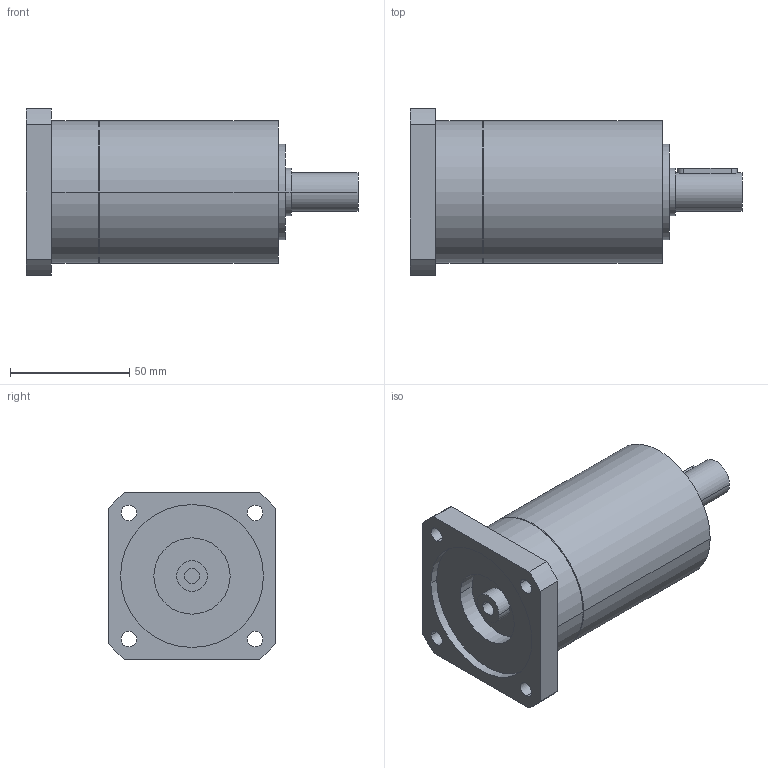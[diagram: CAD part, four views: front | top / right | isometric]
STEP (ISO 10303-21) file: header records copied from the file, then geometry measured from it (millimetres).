
FILE_DESCRIPTION(('CoCreate Modeling STEP Export'),'2;1');
FILE_NAME('GPR75_ig-9-12-16-20-24-30-36_16_B14_6.35_P04.stp','2014-08-25T16:03:53',(''),(''),'CoCreate Modeling STEP processor for AP214 (Solid Model)','CoCreate Modeling 16.00C 25-Feb-2009 (C) Parametric Technology GmbH','');
FILE_SCHEMA(('AUTOMOTIVE_DESIGN { 1 0 10303 214 1 1 1 1 }'));
Length unit declared in the file: millimetre
Products named in the file (2): GPR75_ig-9-12-16-20-24-30-36_16_B14_6.35_P04
Assembly tree (1 placements, depth 2):
  GPR75_ig-9-12-16-20-24-30-36_16_B14_6.35_P04
    GPR75_ig-9-12-16-20-24-30-36_16_B14_6.35_P04
Bounding box: 139.4 x 70 x 70 mm (x, y, z)
Volume: 313084 mm3; surface area: 36031 mm2
Topology: 1 solids, 1 shells, 70 faces, 187 edges, 131 vertices
Faces by surface type: cylinder 42, plane 22, cone 6
Entity records: 1934 total; most frequent: ORIENTED_EDGE 370, CARTESIAN_POINT 359, DIRECTION 262, EDGE_CURVE 185, VERTEX_POINT 131, AXIS2_PLACEMENT_3D 98, EDGE_LOOP 92, FACE_OUTER_BOUND 70
